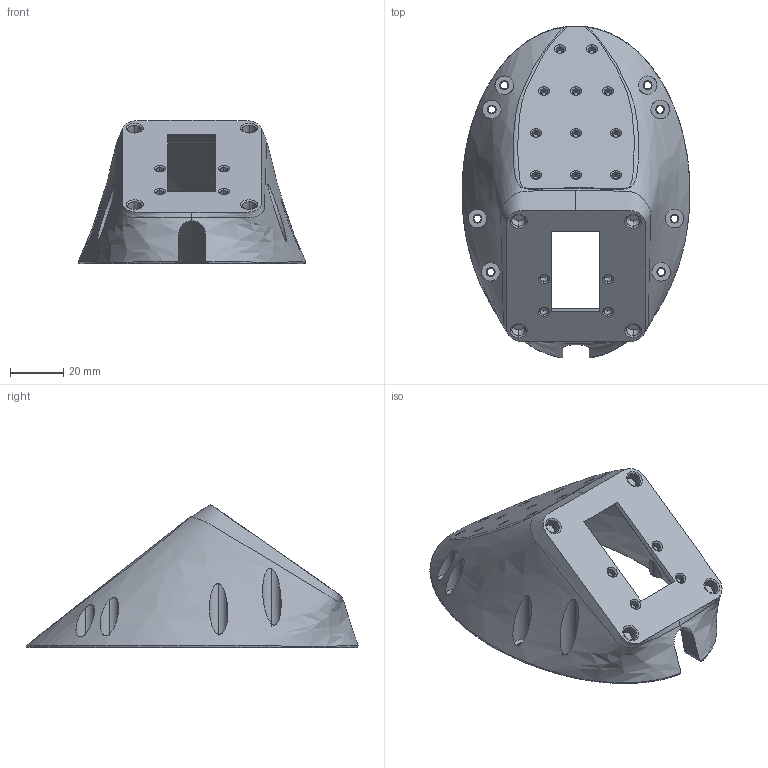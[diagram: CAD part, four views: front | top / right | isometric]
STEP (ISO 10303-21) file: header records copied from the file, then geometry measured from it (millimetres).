
FILE_DESCRIPTION (( 'STEP AP214' ), '1' );
FILE_NAME ('Bubble Gripper Body.STEP', '2021-05-07T20:52:54', ( '' ), ( '' ), 'SwSTEP 2.0', 'SolidWorks 2020', '' );
FILE_SCHEMA (( 'AUTOMOTIVE_DESIGN' ));
Length unit declared in the file: millimetre
Products named in the file (1): Bubble Gripper Body
Bounding box: 85.44 x 124.48 x 53.63 mm (x, y, z)
Volume: 77224.5 mm3; surface area: 31582.1 mm2
Topology: 1 solids, 1 shells, 267 faces, 613 edges, 375 vertices
Faces by surface type: cylinder 90, cone 78, bspline 50, plane 37, torus 12
Entity records: 15738 total; most frequent: CARTESIAN_POINT 9922, ORIENTED_EDGE 1226, DIRECTION 1167, EDGE_CURVE 613, AXIS2_PLACEMENT_3D 494, VERTEX_POINT 375, EDGE_LOOP 312, CIRCLE 276
